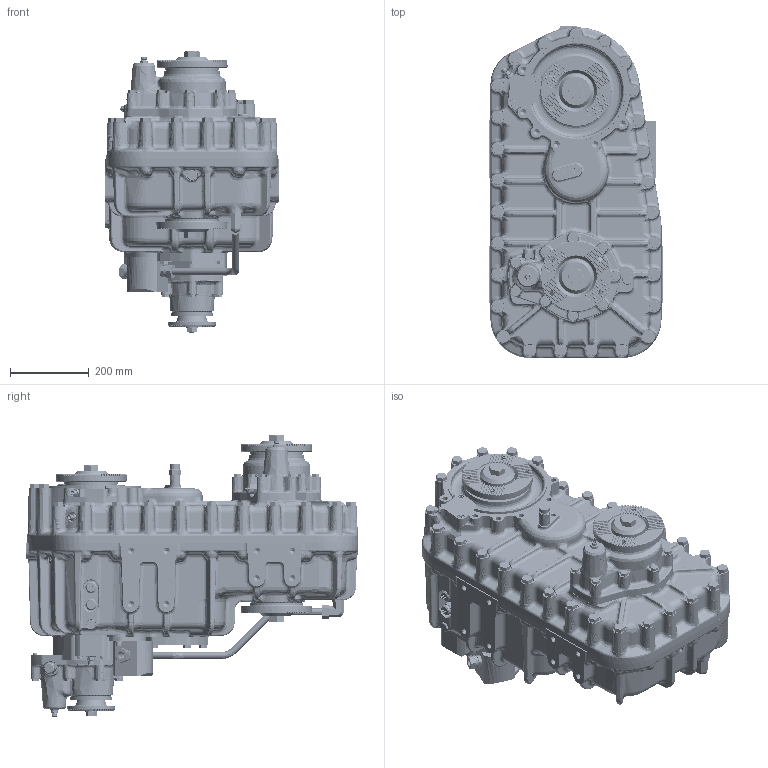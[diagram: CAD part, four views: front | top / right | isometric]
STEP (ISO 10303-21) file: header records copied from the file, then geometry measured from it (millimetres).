
FILE_DESCRIPTION((''),'2;1');
FILE_NAME('R:\work\DGS04005-REMOTE_MOUNT_WHIT_PTO_STEP.stp', '2007-12-18T10:23:16',('User'),('SDRC'),'I-DEAS Master Series 9','UNIX', 'Yes');
FILE_SCHEMA(('AUTOMOTIVE_DESIGN { 1 0 10303 214 1 1 1 1 }'));
Length unit declared in the file: millimetre
Products named in the file (43): DGS04005-REMOTE_MOUNT_WHIT_PTO_STEP; TC26010001-VIKO_UZAVERKY_UPLNE; TC260106-UNASEC_KV180; TC260103; spínaè; TC260107-PODLOZKA_D88; SROUB_M24-80; M12x1.5_M14x1.5; SROUB_M12-75; TC260102-HOUSING; TC260130-VALEC_RAZENI_NEUTRALU; TC260197-VICKO_2; TC260131-VALEC_RAZENI; TC260145-HORNI_VIKO; TC260157-KAPOTÁŽ; TC26010003-POHON_PTO; TC260133-VIKO_PTO; TC0103-v璭o uz嫛鬳ky; UNASEC_KV120; podložka M16 Duplicate4; šroub M16x55 Duplicate3; AD0134 - operny krouzek 56 Duplicate2; TC0111-UNASEC Duplicate1; AD0122-ODSTRIKOVACI KROUZEK; Hex Head; SROUB_M10-60; SROUB_M16-120; SROUB_M10-25_imbus; SROUB_M8-70; SROUB_M12-40; TC26010002-VSTUPNI_HRIDEL; rohové šroubení; šroubení na trubku; SROUB_M10-30_imbus; TC260101-VIKO; Hex Socket Head; PUMP-T2-10R.543.00; ZATKA-M20x1.5; SNIMAC_TACHOMETRU; TC260160-SACI_TRUBKA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
Assembly tree (110 placements, depth 4):
  DGS04005-REMOTE_MOUNT_WHIT_PTO_STEP
    TC26010001-VIKO_UZAVERKY_UPLNE
      TC260106-UNASEC_KV180
      TC260103
      spínaè
      TC260107-PODLOZKA_D88
      SROUB_M24-80
      M12x1.5_M14x1.5
      SROUB_M12-75  x9
    TC260102-HOUSING
    TC260130-VALEC_RAZENI_NEUTRALU
    TC260197-VICKO_2
    TC260106-UNASEC_KV180  x2
    TC260131-VALEC_RAZENI
    TC260145-HORNI_VIKO
    TC260157-KAPOTÁŽ
    TC26010003-POHON_PTO
      TC260133-VIKO_PTO
      TC0103-v璭o uz嫛鬳ky
      UNASEC_KV120
        podložka M16 Duplicate4
        šroub M16x55 Duplicate3
        AD0134 - operny krouzek 56 Duplicate2
        TC0111-UNASEC Duplicate1
        AD0122-ODSTRIKOVACI KROUZEK
      spínaè
      Hex Head  x5
      M12x1.5_M14x1.5
      SROUB_M10-60
    SROUB_M16-120  x22
    SROUB_M10-25_imbus  x2
    SROUB_M8-70  x4
    SROUB_M12-40  x6
    TC26010002-VSTUPNI_HRIDEL
    rohové šroubení
    šroubení na trubku  x2
    SROUB_M10-30_imbus  x2
    TC260101-VIKO
      Hex Socket Head  x5
    spínaè  x2
    PUMP-T2-10R.543.00
    TC260107-PODLOZKA_D88  x2
    SROUB_M24-80  x2
    ZATKA-M20x1.5  x3
    M12x1.5_M14x1.5  x3
    SNIMAC_TACHOMETRU
    TC260160-SACI_TRUBKA
    Hex Socket Head
    TC260101-VIKO_PRO_UNASEC
    SROUB_M16-160(2)  x5
    ZATKA
Bounding box: 440 x 841.5 x 713 mm (x, y, z)
Volume: 27661925.8 mm3; surface area: 4723474 mm2
Topology: 103 solids, 105 shells, 8902 faces, 22122 edges, 13455 vertices
Faces by surface type: bspline 8902
Entity records: 278870 total; most frequent: CARTESIAN_POINT 183757, ORIENTED_EDGE 31813, EDGE_CURVE 15908, VERTEX_POINT 9649, B_SPLINE_CURVE_WITH_KNOTS 7406, EDGE_LOOP 6946, FACE_OUTER_BOUND 6515, ADVANCED_FACE 6515
